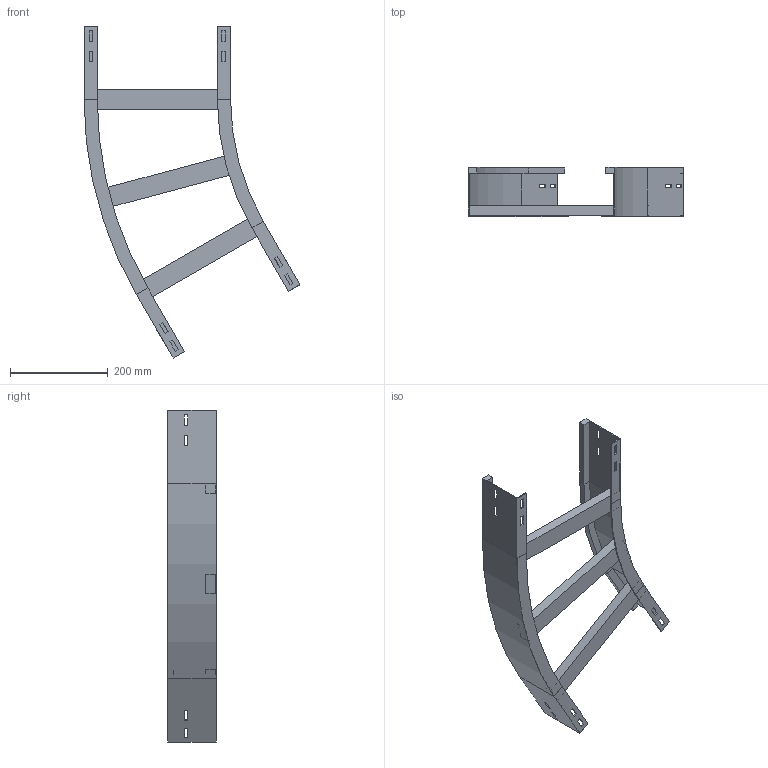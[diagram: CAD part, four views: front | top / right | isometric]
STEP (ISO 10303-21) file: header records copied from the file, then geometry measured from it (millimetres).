
FILE_DESCRIPTION (( 'STEP AP214' ), '1' );
FILE_NAME ('12B5D300.step', '2025-02-21T15:06:35', ( '' ), ( '' ), 'SwSTEP 2.0', 'SolidWorks 2023', '' );
FILE_SCHEMA (( 'AUTOMOTIVE_DESIGN' ));
Length unit declared in the file: millimetre
Products named in the file (4): TRAVERSINO_300; A2_LONGH.ESTERNO 30°_H100_R500+300; A2_LONGH.INTERNO 30°_H100_R500; 12B5D300
Assembly tree (5 placements, depth 2):
  12B5D300
    A2_LONGH.INTERNO 30°_H100_R500
    A2_LONGH.ESTERNO 30°_H100_R500+300
    TRAVERSINO_300  x3
Bounding box: 441.99 x 100 x 679.9 mm (x, y, z)
Volume: 1280411.9 mm3; surface area: 477278 mm2
Topology: 5 solids, 5 shells, 134 faces, 340 edges, 216 vertices
Faces by surface type: plane 126, cylinder 8
Entity records: 3821 total; most frequent: CARTESIAN_POINT 646, ORIENTED_EDGE 632, DIRECTION 592, EDGE_CURVE 316, LINE 300, VECTOR 300, VERTEX_POINT 200, EDGE_LOOP 154
